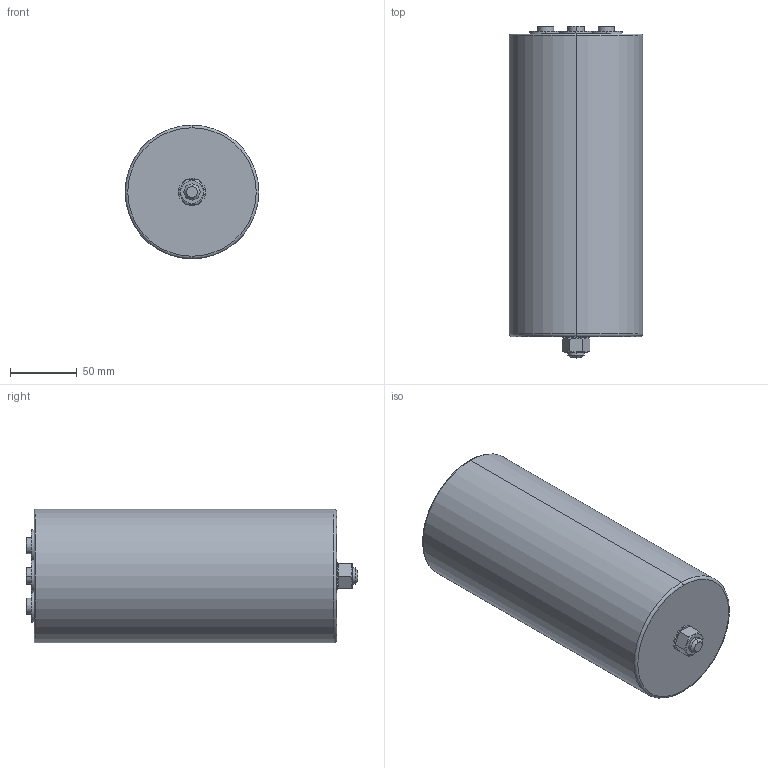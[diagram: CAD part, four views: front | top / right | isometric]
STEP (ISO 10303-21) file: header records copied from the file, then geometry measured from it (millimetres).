
FILE_DESCRIPTION (( 'STEP AP214' ), '1' );
FILE_NAME ('B25967 Series ¦µ100 Hc226 Ht232.STEP', '2025-08-20T02:12:25', ( '' ), ( '' ), 'SwSTEP 2.0', 'SolidWorks 2019', '' );
FILE_SCHEMA (( 'AUTOMOTIVE_DESIGN' ));
Length unit declared in the file: millimetre
Products named in the file (1): B25967 Series 朴100 Hc226 Ht232
Bounding box: 100 x 248 x 100 mm (x, y, z)
Volume: 1778716.7 mm3; surface area: 91198.5 mm2
Topology: 1 solids, 2 shells, 162 faces, 379 edges, 230 vertices
Faces by surface type: cylinder 63, plane 63, cone 30, torus 6
Entity records: 4743 total; most frequent: CARTESIAN_POINT 896, DIRECTION 885, ORIENTED_EDGE 742, EDGE_CURVE 371, AXIS2_PLACEMENT_3D 363, VERTEX_POINT 230, CIRCLE 200, EDGE_LOOP 181
